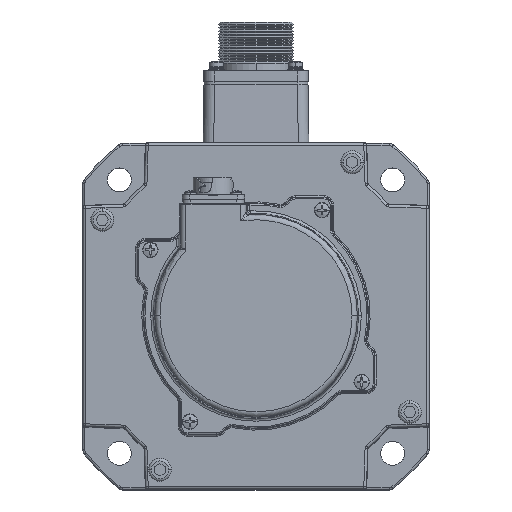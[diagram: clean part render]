
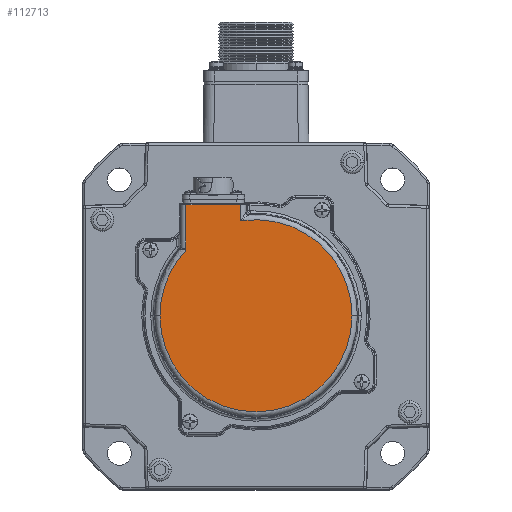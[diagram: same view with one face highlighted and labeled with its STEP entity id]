
A CAD part, top view. The second image highlights one B-rep face of the part: STEP entity #112713.
In plain terms, the highlighted planar face has unit normal (0, 0, 1).
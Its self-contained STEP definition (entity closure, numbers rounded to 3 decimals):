
#1249 = EDGE_CURVE ( 'NONE', #81938, #17140, #5116, .T. ) ;
#5116 = CIRCLE ( 'NONE', #117548, 36.035 ) ;
#5808 = DIRECTION ( 'NONE',  ( -1., 0., 0. ) ) ;
#6078 = DIRECTION ( 'NONE',  ( 0., 0., 1. ) ) ;
#6230 = CARTESIAN_POINT ( 'NONE',  ( -8.872, -56.273, -30.037 ) ) ;
#6935 = DIRECTION ( 'NONE',  ( 0., 0., 1. ) ) ;
#8510 = VECTOR ( 'NONE', #58153, 1000. ) ;
#9528 = CARTESIAN_POINT ( 'NONE',  ( -14.587, -56.273, -30.037 ) ) ;
#9934 = ORIENTED_EDGE ( 'NONE', *, *, #28820, .T. ) ;
#11546 = LINE ( 'NONE', #86915, #8510 ) ;
#14032 = DIRECTION ( 'NONE',  ( -1., 0., 0. ) ) ;
#14116 = CARTESIAN_POINT ( 'NONE',  ( -8.872, -56.273, -30.037 ) ) ;
#16083 = EDGE_CURVE ( 'NONE', #40885, #102373, #67750, .T. ) ;
#17140 = VERTEX_POINT ( 'NONE', #108038 ) ;
#18635 = VERTEX_POINT ( 'NONE', #103839 ) ;
#19145 = DIRECTION ( 'NONE',  ( 0., 1., 0. ) ) ;
#19320 = DIRECTION ( 'NONE',  ( 0., 0., 1. ) ) ;
#28820 = EDGE_CURVE ( 'NONE', #18635, #81938, #59142, .T. ) ;
#36817 = CARTESIAN_POINT ( 'NONE',  ( -14.587, -14.523, -30.037 ) ) ;
#40885 = VERTEX_POINT ( 'NONE', #36817 ) ;
#42324 = VECTOR ( 'NONE', #14032, 1000. ) ;
#48910 = EDGE_CURVE ( 'NONE', #102373, #58108, #11546, .T. ) ;
#51571 = ORIENTED_EDGE ( 'NONE', *, *, #97205, .T. ) ;
#52171 = CARTESIAN_POINT ( 'NONE',  ( -8.872, -14.523, -30.037 ) ) ;
#52647 = DIRECTION ( 'NONE',  ( 0., 0., 1. ) ) ;
#53188 = EDGE_LOOP ( 'NONE', ( #51571, #92637, #123087, #101716, #9934, #58932 ) ) ;
#56326 = CARTESIAN_POINT ( 'NONE',  ( -35.157, -14.523, -30.037 ) ) ;
#58108 = VERTEX_POINT ( 'NONE', #119936 ) ;
#58153 = DIRECTION ( 'NONE',  ( 0., -1., 0. ) ) ;
#58932 = ORIENTED_EDGE ( 'NONE', *, *, #1249, .T. ) ;
#59142 = CIRCLE ( 'NONE', #93324, 36.035 ) ;
#60167 = CARTESIAN_POINT ( 'NONE',  ( 27.163, -56.273, -30.037 ) ) ;
#64374 = CARTESIAN_POINT ( 'NONE',  ( -8.872, -56.273, -30.037 ) ) ;
#67750 = LINE ( 'NONE', #52171, #42324 ) ;
#69582 = VECTOR ( 'NONE', #19145, 1000. ) ;
#71556 = AXIS2_PLACEMENT_3D ( 'NONE', #76633, #19320, #86190 ) ;
#73923 = DIRECTION ( 'NONE',  ( -1., 0., 0. ) ) ;
#75541 = LINE ( 'NONE', #9528, #69582 ) ;
#76292 = EDGE_CURVE ( 'NONE', #58108, #18635, #114374, .T. ) ;
#76633 = CARTESIAN_POINT ( 'NONE',  ( -8.872, -56.273, -30.037 ) ) ;
#80980 = PLANE ( 'NONE',  #98959 ) ;
#81938 = VERTEX_POINT ( 'NONE', #60167 ) ;
#86190 = DIRECTION ( 'NONE',  ( -1., 0., 0. ) ) ;
#86915 = CARTESIAN_POINT ( 'NONE',  ( -35.157, -56.273, -30.037 ) ) ;
#92637 = ORIENTED_EDGE ( 'NONE', *, *, #16083, .T. ) ;
#93324 = AXIS2_PLACEMENT_3D ( 'NONE', #64374, #6935, #73923 ) ;
#97205 = EDGE_CURVE ( 'NONE', #17140, #40885, #75541, .T. ) ;
#98959 = AXIS2_PLACEMENT_3D ( 'NONE', #14116, #52647, #119410 ) ;
#101716 = ORIENTED_EDGE ( 'NONE', *, *, #76292, .T. ) ;
#101975 = FACE_OUTER_BOUND ( 'NONE', #53188, .T. ) ;
#102373 = VERTEX_POINT ( 'NONE', #56326 ) ;
#103839 = CARTESIAN_POINT ( 'NONE',  ( -44.907, -56.273, -30.037 ) ) ;
#108038 = CARTESIAN_POINT ( 'NONE',  ( -14.587, -20.695, -30.037 ) ) ;
#112713 = ADVANCED_FACE ( 'NONE', ( #101975 ), #80980, .T. ) ;
#114374 = CIRCLE ( 'NONE', #71556, 36.035 ) ;
#117548 = AXIS2_PLACEMENT_3D ( 'NONE', #6230, #6078, #5808 ) ;
#119410 = DIRECTION ( 'NONE',  ( -1., 0., 0. ) ) ;
#119936 = CARTESIAN_POINT ( 'NONE',  ( -35.157, -31.624, -30.037 ) ) ;
#123087 = ORIENTED_EDGE ( 'NONE', *, *, #48910, .T. ) ;
